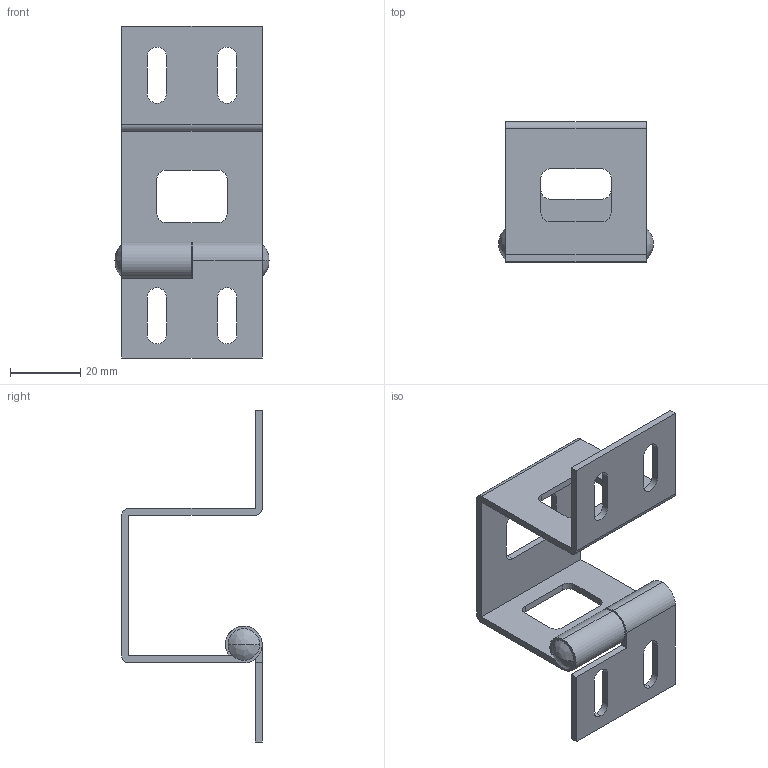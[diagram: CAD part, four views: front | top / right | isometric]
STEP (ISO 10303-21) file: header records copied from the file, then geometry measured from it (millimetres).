
FILE_DESCRIPTION (( 'STEP AP203' ), '1' );
FILE_NAME ('B64 KH-1262.STEP', '2010-10-11T05:58:49', ( ' ' ), ( '' ), 'SwSTEP 2.0', 'SolidWorks 2010', '' );
FILE_SCHEMA (( 'CONFIG_CONTROL_DESIGN' ));
Length unit declared in the file: millimetre
Products named in the file (4): CH- 033C; CH- 033A; B64 KH-1262; CH- 033B
Assembly tree (3 placements, depth 2):
  B64 KH-1262
    CH- 033C
    CH- 033B
    CH- 033A
Bounding box: 44 x 40 x 94.5 mm (x, y, z)
Volume: 13685.2 mm3; surface area: 15271.3 mm2
Topology: 3 solids, 3 shells, 87 faces, 243 edges, 160 vertices
Faces by surface type: plane 44, cylinder 39, bspline 4
Entity records: 3281 total; most frequent: CARTESIAN_POINT 552, DIRECTION 503, ORIENTED_EDGE 478, EDGE_CURVE 239, AXIS2_PLACEMENT_3D 175, VERTEX_POINT 160, VECTOR 153, LINE 153
